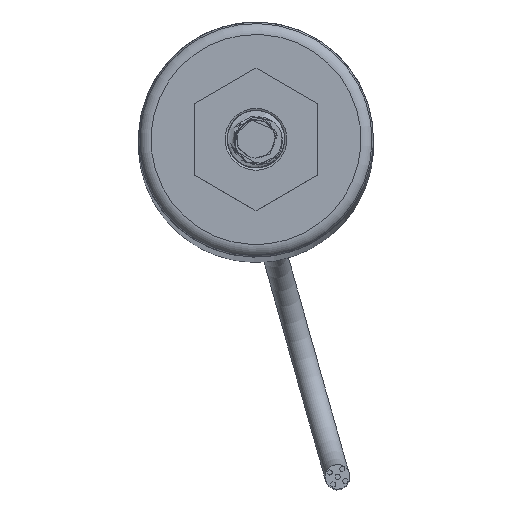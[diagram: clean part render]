
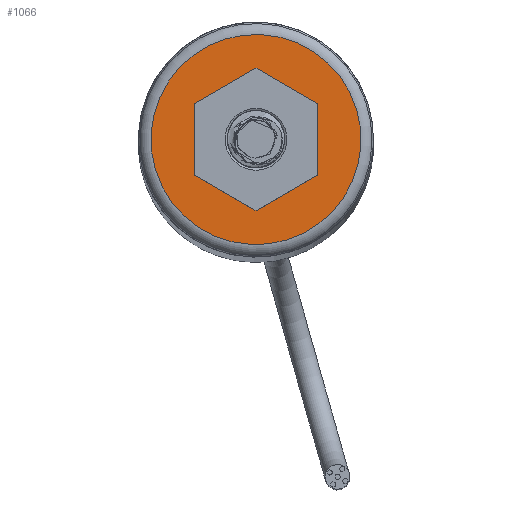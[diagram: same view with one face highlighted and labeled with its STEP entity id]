
A CAD part, top view. The second image highlights one B-rep face of the part: STEP entity #1066.
In plain terms, the highlighted planar face has unit normal (0, 0, 1).
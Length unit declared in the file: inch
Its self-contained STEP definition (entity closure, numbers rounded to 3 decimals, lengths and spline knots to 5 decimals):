
#68=FACE_BOUND('',#205,.T.);
#85=PLANE('',#1309);
#130=FACE_OUTER_BOUND('',#204,.T.);
#204=EDGE_LOOP('',(#750));
#205=EDGE_LOOP('',(#751));
#384=CIRCLE('',#1304,0.1675);
#388=CIRCLE('',#1310,0.0625);
#471=VERTEX_POINT('',#1876);
#474=VERTEX_POINT('',#1886);
#573=EDGE_CURVE('',#471,#471,#384,.T.);
#578=EDGE_CURVE('',#474,#474,#388,.T.);
#750=ORIENTED_EDGE('',*,*,#573,.F.);
#751=ORIENTED_EDGE('',*,*,#578,.T.);
#1066=ADVANCED_FACE('',(#130,#68),#85,.T.);
#1304=AXIS2_PLACEMENT_3D('',#1877,#1499,#1500);
#1309=AXIS2_PLACEMENT_3D('',#1885,#1510,#1511);
#1310=AXIS2_PLACEMENT_3D('',#1887,#1512,#1513);
#1499=DIRECTION('center_axis',(0.,0.,
-1.));
#1500=DIRECTION('ref_axis',(-0.788,-0.615,0.));
#1510=DIRECTION('center_axis',(0.,0.,
1.));
#1511=DIRECTION('ref_axis',(0.788,0.615,0.));
#1512=DIRECTION('center_axis',(0.,0.,
-1.));
#1513=DIRECTION('ref_axis',(0.788,0.615,0.));
#1876=CARTESIAN_POINT('',(-0.13203,-0.10308,0.029));
#1877=CARTESIAN_POINT('Origin',(0.,0.,
0.029));
#1885=CARTESIAN_POINT('Origin',(0.,0.,
0.029));
#1886=CARTESIAN_POINT('',(-0.04926,-0.03846,0.029));
#1887=CARTESIAN_POINT('Origin',(0.,0.,
0.029));
